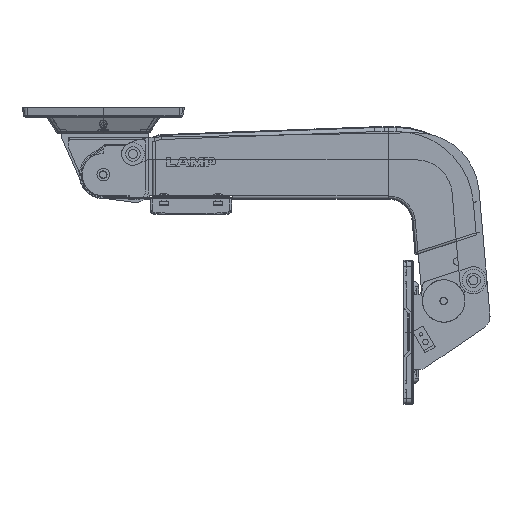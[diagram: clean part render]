
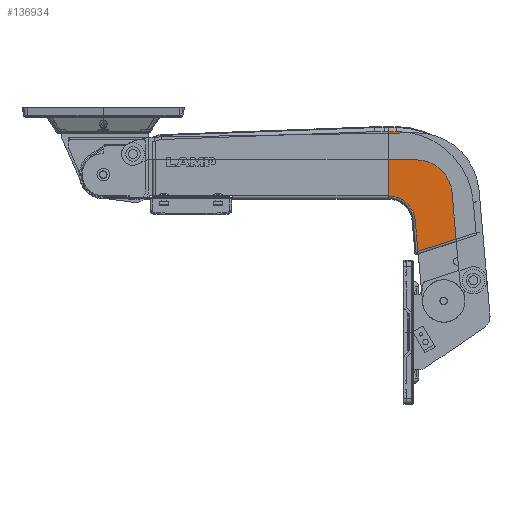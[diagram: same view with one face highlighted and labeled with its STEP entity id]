
A CAD part, front view. The second image highlights one B-rep face of the part: STEP entity #136934.
In plain terms, the highlighted planar face has unit normal (0, -1, 0).
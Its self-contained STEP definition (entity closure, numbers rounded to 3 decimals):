
#2249 = EDGE_CURVE ( 'NONE', #149286, #140629, #125874, .T. ) ;
#3871 = CARTESIAN_POINT ( 'NONE',  ( 115.008, -21.6, -107.494 ) ) ;
#5144 = DIRECTION ( 'NONE',  ( -0.873, 0., -0.488 ) ) ;
#7899 = CARTESIAN_POINT ( 'NONE',  ( 135.664, -21.6, -208.949 ) ) ;
#8577 = LINE ( 'NONE', #148078, #73896 ) ;
#10654 = CARTESIAN_POINT ( 'NONE',  ( 63.597, -21.6, -31.911 ) ) ;
#11126 = LINE ( 'NONE', #103231, #107003 ) ;
#12303 = EDGE_LOOP ( 'NONE', ( #76607, #157487, #86072, #102104, #42831, #134204, #72137 ) ) ;
#14325 = LINE ( 'NONE', #146487, #40831 ) ;
#28524 = DIRECTION ( 'NONE',  ( 0., 1., 0. ) ) ;
#31930 = VERTEX_POINT ( 'NONE', #111698 ) ;
#40831 = VECTOR ( 'NONE', #145948, 1000. ) ;
#41508 = EDGE_CURVE ( 'NONE', #71974, #98648, #141277, .T. ) ;
#42831 = ORIENTED_EDGE ( 'NONE', *, *, #41508, .F. ) ;
#44672 = CARTESIAN_POINT ( 'NONE',  ( 154.292, -21.6, -116.764 ) ) ;
#46715 = DIRECTION ( 'NONE',  ( -0.873, 0., -0.488 ) ) ;
#53839 = EDGE_CURVE ( 'NONE', #96904, #149286, #100006, .T. ) ;
#71974 = VERTEX_POINT ( 'NONE', #137470 ) ;
#72137 = ORIENTED_EDGE ( 'NONE', *, *, #2249, .F. ) ;
#73896 = VECTOR ( 'NONE', #134430, 1000. ) ;
#76607 = ORIENTED_EDGE ( 'NONE', *, *, #53839, .F. ) ;
#78030 = EDGE_CURVE ( 'NONE', #129117, #31930, #14325, .T. ) ;
#79647 = CARTESIAN_POINT ( 'NONE',  ( 44.06, -21.6, -45.2 ) ) ;
#83273 = DIRECTION ( 'NONE',  ( 0., -1., 0. ) ) ;
#83288 = FACE_OUTER_BOUND ( 'NONE', #12303, .T. ) ;
#86072 = ORIENTED_EDGE ( 'NONE', *, *, #78030, .F. ) ;
#92781 = PLANE ( 'NONE',  #151434 ) ;
#96904 = VERTEX_POINT ( 'NONE', #152576 ) ;
#98648 = VERTEX_POINT ( 'NONE', #158100 ) ;
#99861 = CARTESIAN_POINT ( 'NONE',  ( 68.812, -21.6, -156.676 ) ) ;
#100006 = LINE ( 'NONE', #10654, #130574 ) ;
#101873 = DIRECTION ( 'NONE',  ( 0.562, 0., -0.827 ) ) ;
#102104 = ORIENTED_EDGE ( 'NONE', *, *, #110630, .F. ) ;
#102554 = VECTOR ( 'NONE', #46715, 1000. ) ;
#103231 = CARTESIAN_POINT ( 'NONE',  ( 88.724, -21.6, -86.526 ) ) ;
#105870 = DIRECTION ( 'NONE',  ( -0.873, 0., -0.488 ) ) ;
#106612 = CARTESIAN_POINT ( 'NONE',  ( 139.698, -21.6, -108.46 ) ) ;
#107003 = VECTOR ( 'NONE', #155552, 1000. ) ;
#110630 = EDGE_CURVE ( 'NONE', #98648, #129117, #150012, .T. ) ;
#111698 = CARTESIAN_POINT ( 'NONE',  ( 49.749, -21.6, -128.649 ) ) ;
#116247 = AXIS2_PLACEMENT_3D ( 'NONE', #106612, #28524, #119706 ) ;
#119706 = DIRECTION ( 'NONE',  ( -0.873, 0., -0.488 ) ) ;
#125874 = CIRCLE ( 'NONE', #137114, 29.872 ) ;
#129117 = VERTEX_POINT ( 'NONE', #99861 ) ;
#130574 = VECTOR ( 'NONE', #101873, 1000. ) ;
#130914 = DIRECTION ( 'NONE',  ( 0., 1., 0. ) ) ;
#134204 = ORIENTED_EDGE ( 'NONE', *, *, #158091, .T. ) ;
#134430 = DIRECTION ( 'NONE',  ( -0.488, 0., 0.873 ) ) ;
#136934 = ADVANCED_FACE ( 'NONE', ( #83288 ), #92781, .F. ) ;
#137114 = AXIS2_PLACEMENT_3D ( 'NONE', #161317, #83273, #5144 ) ;
#137470 = CARTESIAN_POINT ( 'NONE',  ( 189.13, -21.6, -179.039 ) ) ;
#140629 = VERTEX_POINT ( 'NONE', #44672 ) ;
#141277 = LINE ( 'NONE', #7899, #102554 ) ;
#145948 = DIRECTION ( 'NONE',  ( -0.562, 0., 0.827 ) ) ;
#146487 = CARTESIAN_POINT ( 'NONE',  ( 9.142, -21.6, -68.951 ) ) ;
#148078 = CARTESIAN_POINT ( 'NONE',  ( 153.134, -21.6, -114.694 ) ) ;
#149024 = EDGE_CURVE ( 'NONE', #31930, #96904, #11126, .T. ) ;
#149286 = VERTEX_POINT ( 'NONE', #3871 ) ;
#150012 = CIRCLE ( 'NONE', #116247, 85.73 ) ;
#151434 = AXIS2_PLACEMENT_3D ( 'NONE', #79647, #130914, #105870 ) ;
#152576 = CARTESIAN_POINT ( 'NONE',  ( 95.652, -21.6, -79.038 ) ) ;
#155552 = DIRECTION ( 'NONE',  ( 0.679, 0., 0.734 ) ) ;
#157487 = ORIENTED_EDGE ( 'NONE', *, *, #149024, .F. ) ;
#158091 = EDGE_CURVE ( 'NONE', #71974, #140629, #8577, .T. ) ;
#158100 = CARTESIAN_POINT ( 'NONE',  ( 181.552, -21.6, -183.278 ) ) ;
#161317 = CARTESIAN_POINT ( 'NONE',  ( 139.708, -21.6, -90.694 ) ) ;
